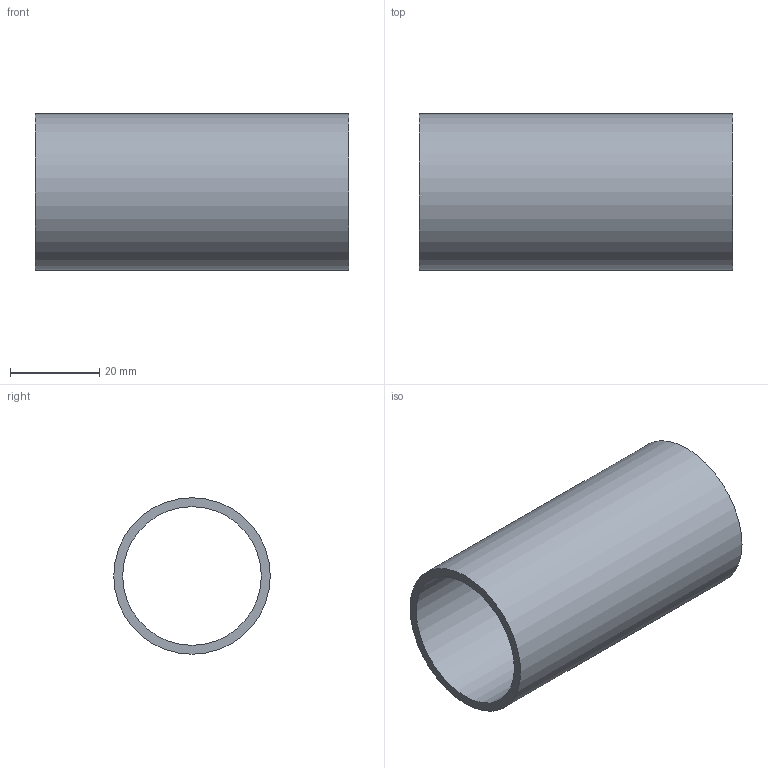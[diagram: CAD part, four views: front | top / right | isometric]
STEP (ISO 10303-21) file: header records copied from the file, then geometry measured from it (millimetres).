
FILE_DESCRIPTION(/* description */ (''),/* implementation_level */ '2;1');
FILE_NAME(/* name */ 'Pos110-Constructie buis 35x2-S235JRH-8st',/* time_stamp */ '2024-08-06T11:42:42+02:00',/* author */ (''),/* organization */ (''),/* preprocessor_version */ 'ST-DEVELOPER v16.5',/* originating_system */ 'HiCAD 2024 2901.2 Build 361',/* authorisation */ '');
FILE_SCHEMA (('AUTOMOTIVE_DESIGN { 1 0 10303 214 1 1 1 1 }'));
Length unit declared in the file: millimetre
Products named in the file (1): Pos110-Constructie buis 35x2-S235JRH-8st
Bounding box: 70 x 35 x 35 mm (x, y, z)
Volume: 14514.2 mm3; surface area: 14928.8 mm2
Topology: 1 solids, 1 shells, 4 faces, 6 edges, 4 vertices
Faces by surface type: cylinder 2, plane 2
Full cylindrical faces by diameter (mm): 31 x1, 35 x1
Entity records: 146 total; most frequent: DIRECTION 16, CARTESIAN_POINT 12, PRESENTATION_STYLE_ASSIGNMENT 9, COLOUR_RGB 9, DRAUGHTING_PRE_DEFINED_CURVE_FONT 8, CURVE_STYLE 8, OVER_RIDING_STYLED_ITEM 8, ORIENTED_EDGE 8
